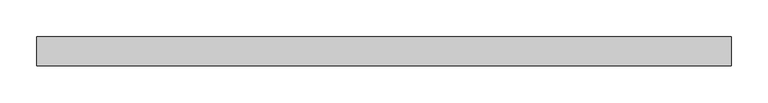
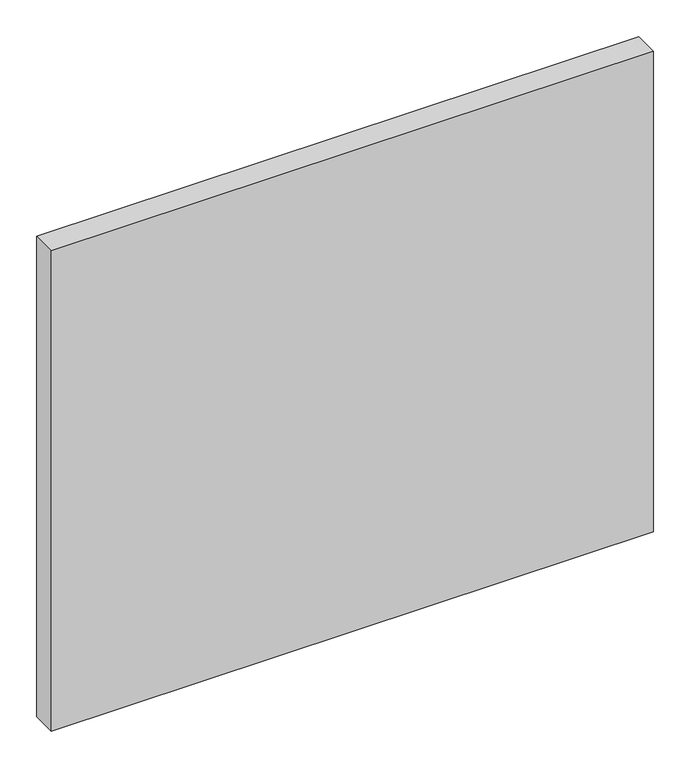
"""IFC4 building model written with IfcOpenShell, lengths in millimetres: plate geometry, Vitré."""

from ifc_helpers import new_model, si_unit, origin, origin_with_axes, place, context, project, spatial, polyline, outline, extrude, source, transform, mapped, element, save


def plate_7bdb22c3(model_context):
    return source(origin(), model_context, "Body", "SweptSolid", [
        extrude(outline(polyline([(-475.0, -20.0), (-475.0, 20.0), (475.0, 20.0), (475.0, -20.0), (-475.0, -20.0)])), origin_with_axes(), (0.0, 0.0, 1.0), 801.2351114),
    ])


if __name__ == "__main__":
    model = new_model("IFC4")
    model_context = context("Model", 3, world=origin())
    ifc_project = project(units=[si_unit("LENGTHUNIT", "METRE", prefix="MILLI")], contexts=[model_context])
    site = spatial("IfcSite", under=ifc_project)
    building = spatial("IfcBuilding", under=site)
    placement = place(None, origin())
    plate_shape = plate_7bdb22c3(model_context)
    element("IfcPlate", 1, ObjectType="Vitré", at=placement, inside=building, context=model_context, shape_type="MappedRepresentation", body=[
        mapped(plate_shape, transform((0.0, 0.0, 0.0), x_axis=(1.0, 0.0, 0.0), y_axis=(0.0, 1.0, 0.0), z_axis=(0.0, 0.0, 1.0))),
    ])
    save(model, "model.ifc")
